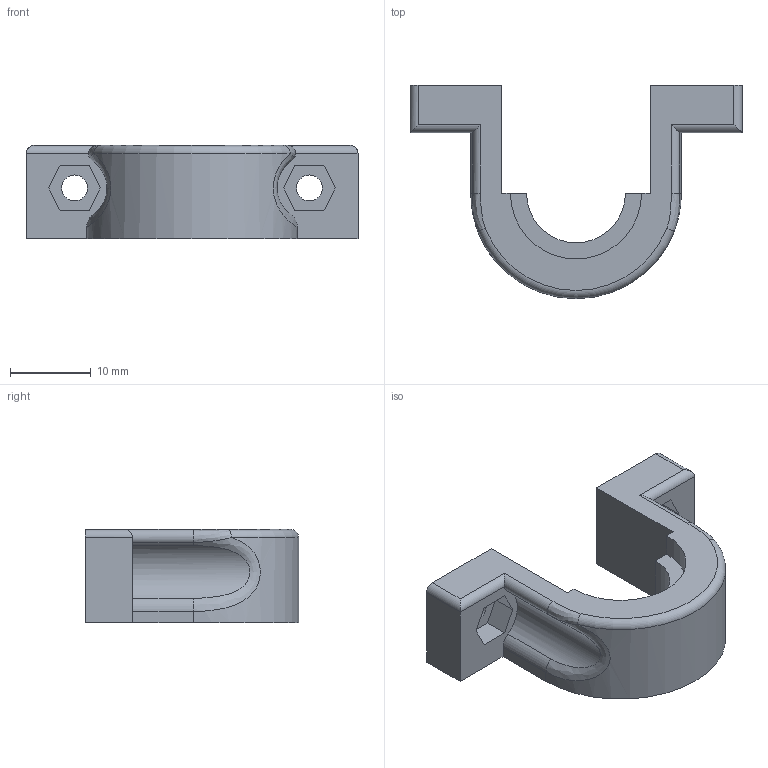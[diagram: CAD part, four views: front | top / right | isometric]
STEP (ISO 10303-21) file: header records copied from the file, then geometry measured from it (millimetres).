
FILE_DESCRIPTION(/* description */ (''),/* implementation_level */ '2;1');
FILE_NAME(/* name */ 'D:\3D печать\Мои проекты\Archy MK 2\STEP\крепление хотенда.stp',/* time_stamp */ '2019-03-20T22:15:04+06:00',/* author */ ('Пользователь'),/* organization */ (''),/* preprocessor_version */ 'ST-DEVELOPER v16.5',/* originating_system */ 'Autodesk Inventor 2017',/* authorisation */ '');
FILE_SCHEMA (('AUTOMOTIVE_DESIGN { 1 0 10303 214 3 1 1 }'));
Length unit declared in the file: millimetre
Products named in the file (1): крепление \X2\0445043E
04420435043D04340430\X0\
Bounding box: 41 x 26.35 x 11.5 mm (x, y, z)
Volume: 3723.7 mm3; surface area: 2776.3 mm2
Topology: 1 solids, 1 shells, 53 faces, 139 edges, 90 vertices
Faces by surface type: plane 30, cylinder 18, bspline 4, torus 1
Full cylindrical faces by diameter (mm): 3.2 x2
Entity records: 1838 total; most frequent: CARTESIAN_POINT 501, ORIENTED_EDGE 274, DIRECTION 264, EDGE_CURVE 137, LINE 94, VECTOR 94, VERTEX_POINT 90, AXIS2_PLACEMENT_3D 85
